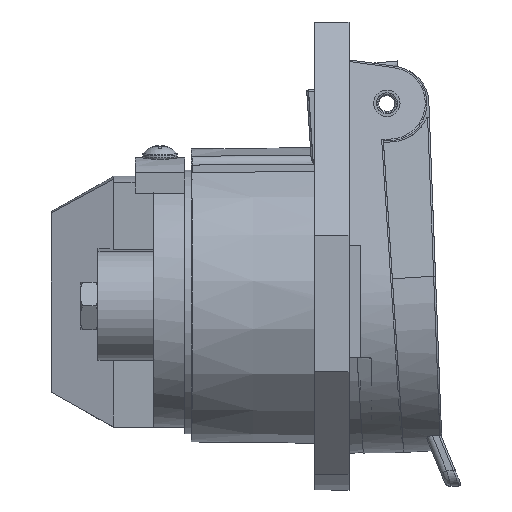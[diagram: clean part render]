
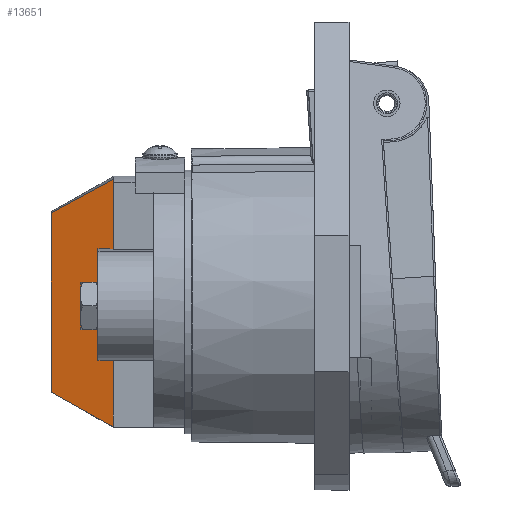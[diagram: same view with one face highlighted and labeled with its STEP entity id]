
A CAD part, top view. The second image highlights one B-rep face of the part: STEP entity #13651.
In plain terms, the highlighted planar face has unit normal (-0.148, -0.069, 0.987) as drawn and (0.148, 0.989, 0) by its records, which use the part's own axes.
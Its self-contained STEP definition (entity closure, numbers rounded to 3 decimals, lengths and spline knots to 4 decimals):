
#1886=FACE_OUTER_BOUND('',#2679,.T.);
#2679=EDGE_LOOP('',(#11482,#11483,#11484,#11485,#11486,#11487,#11488,#11489));
#3738=LINE('',#33883,#4825);
#3743=LINE('',#33898,#4830);
#3748=LINE('',#33913,#4835);
#3754=LINE('',#33929,#4841);
#3765=LINE('',#33953,#4852);
#3774=LINE('',#33993,#4861);
#3779=LINE('',#34018,#4866);
#3781=LINE('',#34022,#4868);
#4825=VECTOR('',#17392,0.3937);
#4830=VECTOR('',#17407,0.3937);
#4835=VECTOR('',#17420,0.3937);
#4841=VECTOR('',#17434,0.3937);
#4852=VECTOR('',#17455,0.3937);
#4861=VECTOR('',#17480,0.4539);
#4866=VECTOR('',#17487,0.3937);
#4868=VECTOR('',#17493,0.3937);
#6117=VERTEX_POINT('',#33881);
#6118=VERTEX_POINT('',#33882);
#6123=VERTEX_POINT('',#33897);
#6129=VERTEX_POINT('',#33912);
#6135=VERTEX_POINT('',#33928);
#6143=VERTEX_POINT('',#33952);
#6150=VERTEX_POINT('',#33992);
#6153=VERTEX_POINT('',#34016);
#7949=EDGE_CURVE('',#6117,#6118,#3738,.T.);
#7957=EDGE_CURVE('',#6123,#6117,#3743,.T.);
#7964=EDGE_CURVE('',#6118,#6129,#3748,.T.);
#7972=EDGE_CURVE('',#6135,#6123,#3754,.T.);
#7984=EDGE_CURVE('',#6143,#6129,#3765,.T.);
#7997=EDGE_CURVE('',#6143,#6150,#3774,.T.);
#8003=EDGE_CURVE('',#6135,#6153,#3779,.T.);
#8005=EDGE_CURVE('',#6153,#6150,#3781,.T.);
#11482=ORIENTED_EDGE('',*,*,#7964,.F.);
#11483=ORIENTED_EDGE('',*,*,#7949,.F.);
#11484=ORIENTED_EDGE('',*,*,#7957,.F.);
#11485=ORIENTED_EDGE('',*,*,#7972,.F.);
#11486=ORIENTED_EDGE('',*,*,#8003,.T.);
#11487=ORIENTED_EDGE('',*,*,#8005,.T.);
#11488=ORIENTED_EDGE('',*,*,#7997,.F.);
#11489=ORIENTED_EDGE('',*,*,#7984,.T.);
#13060=PLANE('',#14786);
#13651=ADVANCED_FACE('',(#1886),#13060,.F.);
#14786=AXIS2_PLACEMENT_3D('',#34023,#17494,#17495);
#17392=DIRECTION('',(0.,0.,-1.));
#17407=DIRECTION('',(0.989,-0.148,0.));
#17420=DIRECTION('',(-0.989,0.148,0.));
#17434=DIRECTION('',(0.,0.,-1.));
#17455=DIRECTION('',(0.,0.,1.));
#17480=DIRECTION('',(0.868,-0.13,0.479));
#17487=DIRECTION('',(0.868,-0.13,-0.479));
#17493=DIRECTION('',(0.,0.,-1.));
#17494=DIRECTION('center_axis',(-0.148,-0.989,0.));
#17495=DIRECTION('ref_axis',(0.,0.,-1.));
#33881=CARTESIAN_POINT('',(2.9118,0.969,0.3445));
#33882=CARTESIAN_POINT('',(2.9118,0.969,-0.3445));
#33883=CARTESIAN_POINT('',(2.9118,0.969,0.3942));
#33897=CARTESIAN_POINT('',(2.8138,0.9837,0.3445));
#33898=CARTESIAN_POINT('',(2.6699,1.0052,0.3445));
#33912=CARTESIAN_POINT('',(2.8138,0.9837,-0.3445));
#33913=CARTESIAN_POINT('',(2.7247,0.997,-0.3445));
#33928=CARTESIAN_POINT('',(2.8138,0.9837,0.7884));
#33929=CARTESIAN_POINT('',(2.8138,0.9837,0.669));
#33952=CARTESIAN_POINT('',(2.8138,0.9837,-0.7884));
#33953=CARTESIAN_POINT('',(2.8138,0.9837,-0.3445));
#33992=CARTESIAN_POINT('',(3.2078,0.9246,-0.5709));
#33993=CARTESIAN_POINT('',(2.8138,0.9837,-0.7884));
#34016=CARTESIAN_POINT('',(3.2078,0.9246,0.5709));
#34018=CARTESIAN_POINT('',(2.8138,0.9837,0.7884));
#34022=CARTESIAN_POINT('',(3.2078,0.9246,0.5709));
#34023=CARTESIAN_POINT('Origin',(2.8138,0.9837,0.7884));
